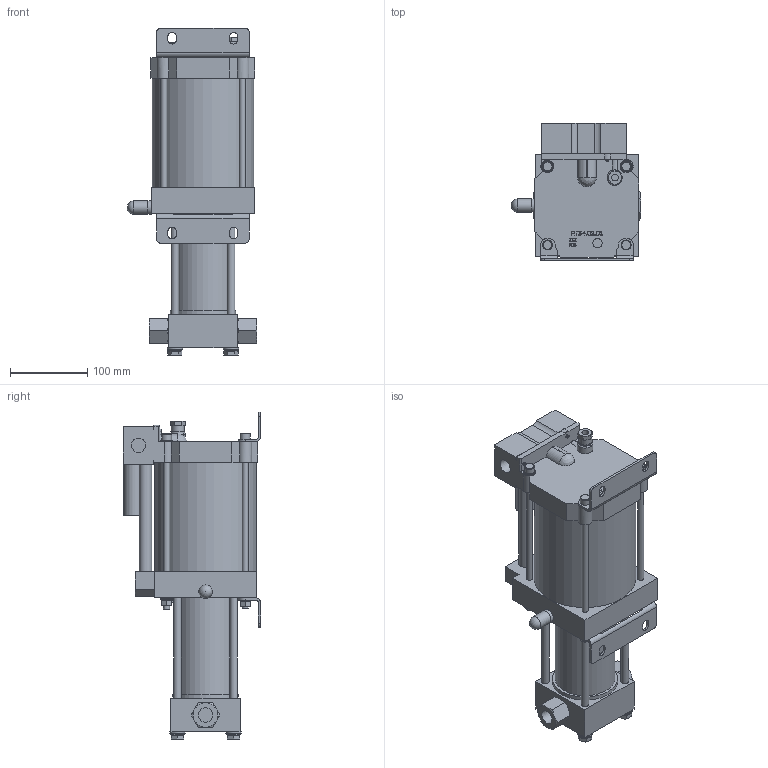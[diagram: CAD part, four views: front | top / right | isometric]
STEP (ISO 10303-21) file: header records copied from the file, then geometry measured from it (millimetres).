
FILE_DESCRIPTION(/* description */ ('SPLV 3-695'),/* implementation_level */ '2;1');
FILE_NAME(/* name */ 'C:\Users\VAULTU~1\AppData\Local\Temp\MX-00028472.stp',/* time_stamp */ '2023-04-25T09:31:59+02:00',/* author */ ('LHolzapfel'),/* organization */ (''),/* preprocessor_version */ 'ST-DEVELOPER v18.1',/* originating_system */ 'Autodesk Inventor 2022',/* authorisation */ '');
FILE_SCHEMA (('AUTOMOTIVE_DESIGN { 1 0 10303 214 3 1 1 }'));
Length unit declared in the file: millimetre
Products named in the file (1): VP16.00.695
Bounding box: 168.5 x 177.91 x 425.2 mm (x, y, z)
Volume: 4476327.9 mm3; surface area: 295302.6 mm2
Topology: 1 solids, 1 shells, 700 faces, 1748 edges, 1113 vertices
Faces by surface type: plane 355, cylinder 142, cone 123, bspline 59, torus 20, sphere 1
Full cylindrical faces by diameter (mm): 4 x5, 4.134 x1, 8 x13, 8.566 x1, 10 x8, 12 x1, 13 x4, 14.4 x1, 14.63 x4, 16 x5, 17 x2, 17.48 x1, 17.5 x1, 18 x1, 18.631 x3, 20 x5, 24 x1, 78 x1, 84.8 x1, 132 x1
Entity records: 22263 total; most frequent: CARTESIAN_POINT 5256, ORIENTED_EDGE 3494, DIRECTION 3166, EDGE_CURVE 1747, AXIS2_PLACEMENT_3D 1144, VERTEX_POINT 1112, LINE 878, VECTOR 878
